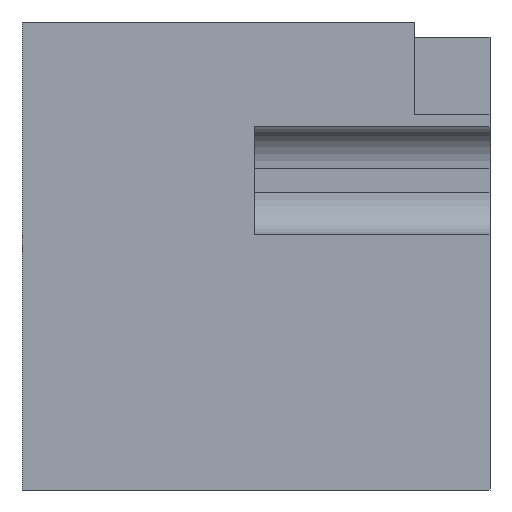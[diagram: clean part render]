
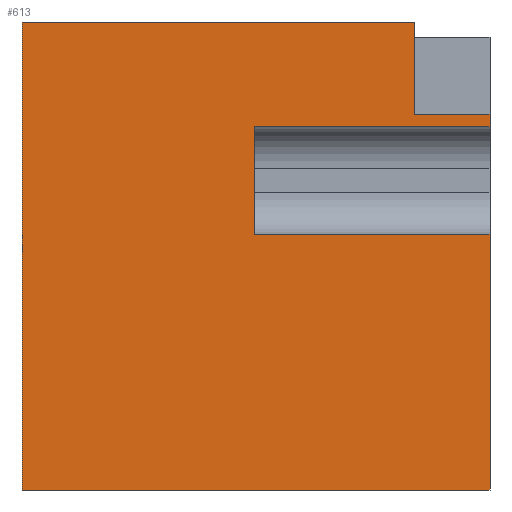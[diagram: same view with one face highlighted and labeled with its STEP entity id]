
A CAD part, left-side view. The second image highlights one B-rep face of the part: STEP entity #613.
In plain terms, the highlighted planar face has unit normal (-1, 0, 0).
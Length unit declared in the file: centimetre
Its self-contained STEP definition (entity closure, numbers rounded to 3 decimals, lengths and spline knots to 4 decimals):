
#10 = CARTESIAN_POINT ( 'NONE',  ( 0., 0., 1000. ) ) ;
#21 = CARTESIAN_POINT ( 'NONE',  ( 0., 1000., 1000. ) ) ;
#22 = ORIENTED_EDGE ( 'NONE', *, *, #680, .T. ) ;
#54 = DIRECTION ( 'NONE',  ( 0., 0., 1. ) ) ;
#69 = VERTEX_POINT ( 'NONE', #839 ) ;
#74 = DIRECTION ( 'NONE',  ( 0., -1., 0. ) ) ;
#133 = VERTEX_POINT ( 'NONE', #237 ) ;
#159 = LINE ( 'NONE', #571, #878 ) ;
#168 = VERTEX_POINT ( 'NONE', #1279 ) ;
#175 = VECTOR ( 'NONE', #567, 100. ) ;
#177 = DIRECTION ( 'NONE',  ( 0., 1., 0. ) ) ;
#225 = DIRECTION ( 'NONE',  ( 1., 0., 0. ) ) ;
#237 = CARTESIAN_POINT ( 'NONE',  ( 0., 0., 776.4921 ) ) ;
#245 = EDGE_CURVE ( 'NONE', #343, #168, #772, .T. ) ;
#248 = EDGE_CURVE ( 'NONE', #849, #503, #796, .T. ) ;
#256 = LINE ( 'NONE', #1071, #1123 ) ;
#257 = ORIENTED_EDGE ( 'NONE', *, *, #1084, .T. ) ;
#279 = CARTESIAN_POINT ( 'NONE',  ( 0., 1000., 0. ) ) ;
#303 = ORIENTED_EDGE ( 'NONE', *, *, #312, .F. ) ;
#305 = VECTOR ( 'NONE', #705, 100. ) ;
#308 = VECTOR ( 'NONE', #788, 100. ) ;
#312 = EDGE_CURVE ( 'NONE', #1155, #133, #713, .T. ) ;
#343 = VERTEX_POINT ( 'NONE', #913 ) ;
#349 = VECTOR ( 'NONE', #74, 100. ) ;
#409 = VECTOR ( 'NONE', #177, 100. ) ;
#425 = EDGE_CURVE ( 'NONE', #849, #1250, #507, .T. ) ;
#460 = CARTESIAN_POINT ( 'NONE',  ( 0., 160.9295, 803.2591 ) ) ;
#466 = DIRECTION ( 'NONE',  ( 0., -1., 0. ) ) ;
#472 = ORIENTED_EDGE ( 'NONE', *, *, #245, .T. ) ;
#501 = CARTESIAN_POINT ( 'NONE',  ( 0., 0., 545.9443 ) ) ;
#503 = VERTEX_POINT ( 'NONE', #940 ) ;
#507 = LINE ( 'NONE', #698, #1289 ) ;
#524 = VERTEX_POINT ( 'NONE', #460 ) ;
#544 = ORIENTED_EDGE ( 'NONE', *, *, #1234, .T. ) ;
#556 = ORIENTED_EDGE ( 'NONE', *, *, #760, .F. ) ;
#567 = DIRECTION ( 'NONE',  ( 0., -1., 0. ) ) ;
#571 = CARTESIAN_POINT ( 'NONE',  ( 0., 504.019, 1000. ) ) ;
#578 = CARTESIAN_POINT ( 'NONE',  ( 0., 0., 803.2591 ) ) ;
#586 = LINE ( 'NONE', #973, #349 ) ;
#613 = ADVANCED_FACE ( 'NONE', ( #737 ), #924, .F. ) ;
#624 = EDGE_LOOP ( 'NONE', ( #303, #1189, #556, #842, #472, #544, #818, #1118, #257, #22 ) ) ;
#631 = DIRECTION ( 'NONE',  ( 0., 0., -1. ) ) ;
#663 = DIRECTION ( 'NONE',  ( 0., 0., -1. ) ) ;
#673 = EDGE_CURVE ( 'NONE', #524, #1155, #882, .T. ) ;
#680 = EDGE_CURVE ( 'NONE', #699, #133, #1158, .T. ) ;
#683 = LINE ( 'NONE', #279, #308 ) ;
#698 = CARTESIAN_POINT ( 'NONE',  ( 0., 0., 1000. ) ) ;
#699 = VERTEX_POINT ( 'NONE', #1285 ) ;
#701 = EDGE_CURVE ( 'NONE', #343, #69, #586, .T. ) ;
#705 = DIRECTION ( 'NONE',  ( 0., 0., -1. ) ) ;
#713 = LINE ( 'NONE', #10, #305 ) ;
#737 = FACE_OUTER_BOUND ( 'NONE', #624, .T. ) ;
#760 = EDGE_CURVE ( 'NONE', #69, #524, #256, .T. ) ;
#772 = LINE ( 'NONE', #1081, #1183 ) ;
#788 = DIRECTION ( 'NONE',  ( 0., -1., 0. ) ) ;
#796 = LINE ( 'NONE', #875, #409 ) ;
#818 = ORIENTED_EDGE ( 'NONE', *, *, #425, .F. ) ;
#829 = AXIS2_PLACEMENT_3D ( 'NONE', #21, #225, #631 ) ;
#839 = CARTESIAN_POINT ( 'NONE',  ( 0., 160.9295, 1000. ) ) ;
#842 = ORIENTED_EDGE ( 'NONE', *, *, #701, .F. ) ;
#849 = VERTEX_POINT ( 'NONE', #501 ) ;
#875 = CARTESIAN_POINT ( 'NONE',  ( 0., 504.019, 545.9443 ) ) ;
#878 = VECTOR ( 'NONE', #54, 100. ) ;
#882 = LINE ( 'NONE', #578, #895 ) ;
#892 = DIRECTION ( 'NONE',  ( 0., 0., -1. ) ) ;
#895 = VECTOR ( 'NONE', #466, 100. ) ;
#913 = CARTESIAN_POINT ( 'NONE',  ( 0., 1000., 1000. ) ) ;
#924 = PLANE ( 'NONE',  #829 ) ;
#940 = CARTESIAN_POINT ( 'NONE',  ( 0., 504.019, 545.9443 ) ) ;
#973 = CARTESIAN_POINT ( 'NONE',  ( 0., 1000., 1000. ) ) ;
#980 = CARTESIAN_POINT ( 'NONE',  ( 0., 504.019, 776.4921 ) ) ;
#1071 = CARTESIAN_POINT ( 'NONE',  ( 0., 160.9295, 803.2591 ) ) ;
#1078 = CARTESIAN_POINT ( 'NONE',  ( 0., 0., 0. ) ) ;
#1081 = CARTESIAN_POINT ( 'NONE',  ( 0., 1000., 1000. ) ) ;
#1084 = EDGE_CURVE ( 'NONE', #503, #699, #159, .T. ) ;
#1105 = DIRECTION ( 'NONE',  ( 0., 0., -1. ) ) ;
#1118 = ORIENTED_EDGE ( 'NONE', *, *, #248, .T. ) ;
#1123 = VECTOR ( 'NONE', #663, 100. ) ;
#1155 = VERTEX_POINT ( 'NONE', #1255 ) ;
#1158 = LINE ( 'NONE', #980, #175 ) ;
#1183 = VECTOR ( 'NONE', #892, 100. ) ;
#1189 = ORIENTED_EDGE ( 'NONE', *, *, #673, .F. ) ;
#1234 = EDGE_CURVE ( 'NONE', #168, #1250, #683, .T. ) ;
#1250 = VERTEX_POINT ( 'NONE', #1078 ) ;
#1255 = CARTESIAN_POINT ( 'NONE',  ( 0., 0., 803.2591 ) ) ;
#1279 = CARTESIAN_POINT ( 'NONE',  ( 0., 1000., 0. ) ) ;
#1285 = CARTESIAN_POINT ( 'NONE',  ( 0., 504.019, 776.4921 ) ) ;
#1289 = VECTOR ( 'NONE', #1105, 100. ) ;
